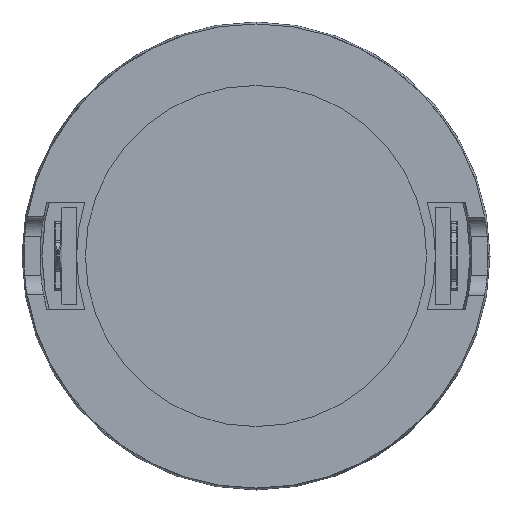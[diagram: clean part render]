
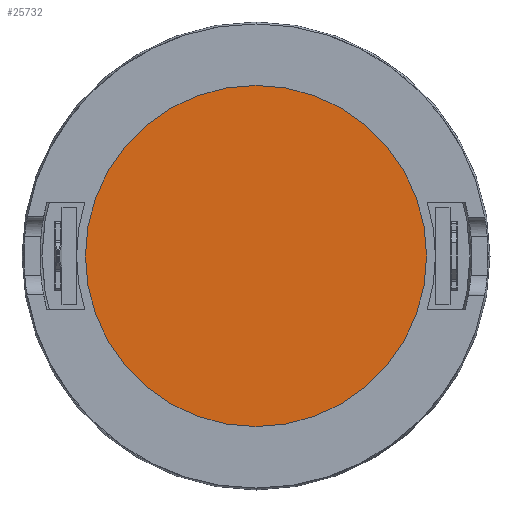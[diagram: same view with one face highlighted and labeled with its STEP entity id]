
A CAD part, front view. The second image highlights one B-rep face of the part: STEP entity #25732.
In plain terms, the highlighted planar face has unit normal (0, -1, 0).
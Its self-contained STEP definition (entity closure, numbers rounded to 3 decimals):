
#6731 = DIRECTION ( 'NONE',  ( 0., -1., 0. ) ) ;
#10147 = ORIENTED_EDGE ( 'NONE', *, *, #39302, .T. ) ;
#19949 = EDGE_LOOP ( 'NONE', ( #10147, #20203 ) ) ;
#20203 = ORIENTED_EDGE ( 'NONE', *, *, #53774, .T. ) ;
#21661 = VERTEX_POINT ( 'NONE', #40429 ) ;
#25580 = VERTEX_POINT ( 'NONE', #47006 ) ;
#25732 = ADVANCED_FACE ( 'NONE', ( #40512 ), #32084, .T. ) ;
#25816 = DIRECTION ( 'NONE',  ( 0., -1., 0. ) ) ;
#26011 = AXIS2_PLACEMENT_3D ( 'NONE', #55707, #25816, #35735 ) ;
#26529 = CARTESIAN_POINT ( 'NONE',  ( 0., -21.99, 0. ) ) ;
#32084 = PLANE ( 'NONE',  #59955 ) ;
#35735 = DIRECTION ( 'NONE',  ( 0., 0., -1. ) ) ;
#38447 = DIRECTION ( 'NONE',  ( 0., 0., -1. ) ) ;
#38866 = CARTESIAN_POINT ( 'NONE',  ( 0., -21.99, 0. ) ) ;
#39302 = EDGE_CURVE ( 'NONE', #21661, #25580, #53253, .T. ) ;
#40429 = CARTESIAN_POINT ( 'NONE',  ( 0., -21.99, -17.5 ) ) ;
#40512 = FACE_OUTER_BOUND ( 'NONE', #19949, .T. ) ;
#45933 = DIRECTION ( 'NONE',  ( 0., 0., -1. ) ) ;
#45999 = CIRCLE ( 'NONE', #26011, 17.5 ) ;
#47006 = CARTESIAN_POINT ( 'NONE',  ( 0., -21.99, 17.5 ) ) ;
#53253 = CIRCLE ( 'NONE', #59184, 17.5 ) ;
#53774 = EDGE_CURVE ( 'NONE', #25580, #21661, #45999, .T. ) ;
#55707 = CARTESIAN_POINT ( 'NONE',  ( 0., -21.99, 0. ) ) ;
#59184 = AXIS2_PLACEMENT_3D ( 'NONE', #38866, #63029, #38447 ) ;
#59955 = AXIS2_PLACEMENT_3D ( 'NONE', #26529, #6731, #45933 ) ;
#63029 = DIRECTION ( 'NONE',  ( 0., -1., 0. ) ) ;
